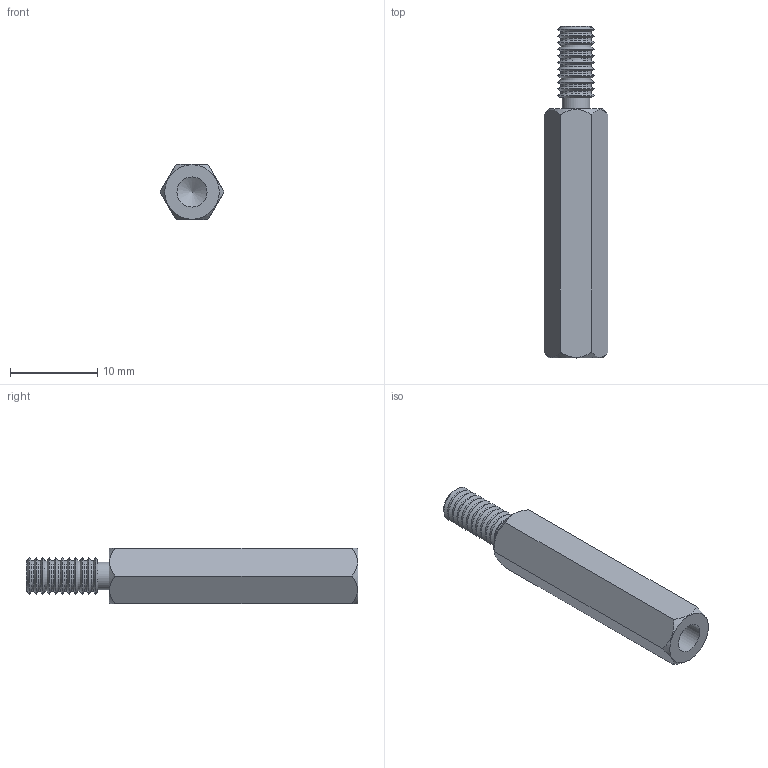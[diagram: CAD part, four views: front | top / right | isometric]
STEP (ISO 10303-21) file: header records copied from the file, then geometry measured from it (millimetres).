
FILE_DESCRIPTION (( 'STEP AP214' ), '1' );
FILE_NAME ('23655r#3.STEP', '2011-07-11T14:17:15', ( 'Vicor User' ), ( 'Microsoft' ), 'SwSTEP 2.0', 'SolidWorks 2010', '' );
FILE_SCHEMA (( 'AUTOMOTIVE_DESIGN' ));
Length unit declared in the file: inch
Products named in the file (1): 23655r#3
Bounding box: 7.33 x 38.1 x 6.35 mm (x, y, z)
Volume: 987.1 mm3; surface area: 974.3 mm2
Topology: 1 solids, 1 shells, 49 faces, 103 edges, 58 vertices
Faces by surface type: cone 25, cylinder 14, plane 10
Full cylindrical faces by diameter (mm): 3.2 x1, 3.454 x13
Entity records: 1227 total; most frequent: CARTESIAN_POINT 318, DIRECTION 188, ORIENTED_EDGE 118, AXIS2_PLACEMENT_3D 91, EDGE_LOOP 90, FACE_OUTER_BOUND 63, EDGE_CURVE 59, VERTEX_POINT 53
